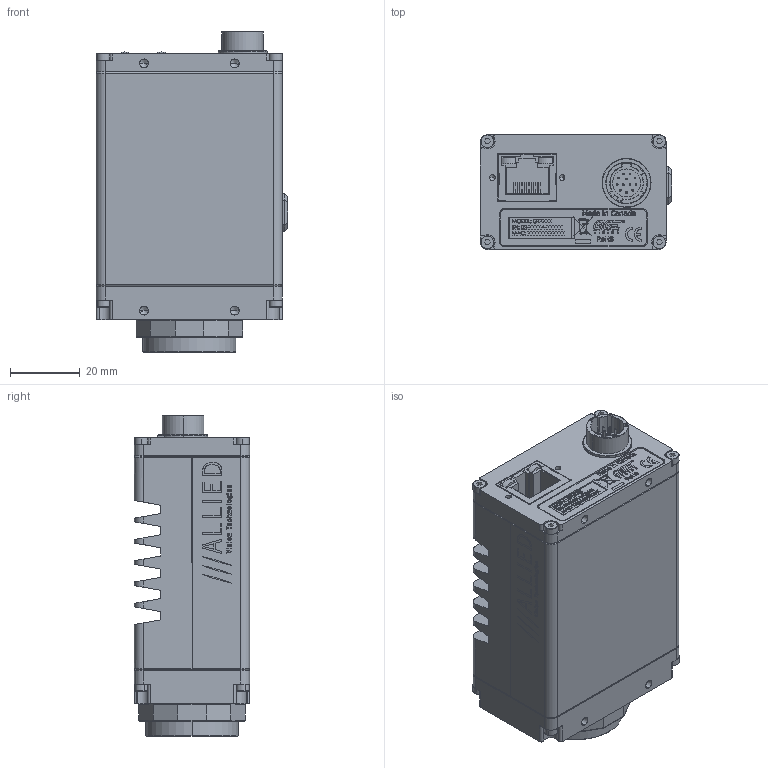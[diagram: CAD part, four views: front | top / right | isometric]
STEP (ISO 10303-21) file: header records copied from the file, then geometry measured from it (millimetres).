
FILE_DESCRIPTION (( 'STEP AP214' ), '1' );
FILE_NAME ('GT1910C CAMERAS ASSY.STEP', '2013-08-01T17:11:16', ( '' ), ( '' ), 'SwSTEP 2.0', 'SolidWorks 2013', '' );
FILE_SCHEMA (( 'AUTOMOTIVE_DESIGN' ));
Length unit declared in the file: millimetre
Products named in the file (26): 100191A-GT BACK ASSY; 110054B-A IR FILTER SUPPORT; 110162A-GT FRONT PLATE LF; GT BOT COVER_110160A-GT BOT COVER LONG; 260034-HIROSE HR10A-10R-12PB; 740144A-GT SERIES LABEL; KODAK KAI-02150 WINDOW; 110031A-B EC-CCD LOCKING RING; 140061-SCREW SKT CAP M2x8 SS; CONN_KOBICONN_163-157J-E; KODAK KAI-02150 BODY; LABEL PRINTOUT; 200130A-GT CONTROL FAST; 100097B - IR FILTER ASSEMBLY 0.75 INCH; GT BODY ASSY_100192A-GT BODY ASSY FAST; CONN_AMPHENOL_RJHSE-5481; GT TOP COVER_110161A-GT TOP COVER LONG; 110153A-GT BACK PLATE; 440002-IR CUT FILTER 22MM DIA; 260034-HIROSE HR10A-10R-12PB NUT; 110003AC-CV CMOUNT RING; 220142-KODAK KAI-02150-CBA; 110103A-GX CCD GASKET; 260034-HIROSE HR10A-10R-12PB WASHER; GT1910C CAMERAS ASSY; GT FRONT ASSY KODAK SF_100201A-GT1910C FRONT ASSY
Assembly tree (32 placements, depth 4):
  GT1910C CAMERAS ASSY
    GT BODY ASSY_100192A-GT BODY ASSY FAST
      200130A-GT CONTROL FAST
        CONN_KOBICONN_163-157J-E
        CONN_AMPHENOL_RJHSE-5481
      140061-SCREW SKT CAP M2x8 SS  x4
      100191A-GT BACK ASSY
        260034-HIROSE HR10A-10R-12PB NUT
        260034-HIROSE HR10A-10R-12PB
        110153A-GT BACK PLATE
        260034-HIROSE HR10A-10R-12PB WASHER
      GT BOT COVER_110160A-GT BOT COVER LONG
      GT TOP COVER_110161A-GT TOP COVER LONG
    140061-SCREW SKT CAP M2x8 SS  x4
    GT FRONT ASSY KODAK SF_100201A-GT1910C FRONT ASSY
      110103A-GX CCD GASKET
      110031A-B EC-CCD LOCKING RING
      110003AC-CV CMOUNT RING
      110162A-GT FRONT PLATE LF
      220142-KODAK KAI-02150-CBA
        KODAK KAI-02150 WINDOW
        KODAK KAI-02150 BODY
      100097B - IR FILTER ASSEMBLY 0.75 INCH
        440002-IR CUT FILTER 22MM DIA
        110054B-A IR FILTER SUPPORT
    740144A-GT SERIES LABEL
    LABEL PRINTOUT
Bounding box: 54.83 x 33.02 x 91.93 mm (x, y, z)
Volume: 65903 mm3; surface area: 56316.9 mm2
Topology: 42 solids, 42 shells, 3839 faces, 9954 edges, 6456 vertices
Faces by surface type: plane 2205, cylinder 725, bspline 641, cone 268
Entity records: 177997 total; most frequent: CARTESIAN_POINT 48363, ORIENTED_EDGE 19116, DIRECTION 16120, EDGE_CURVE 9558, VECTOR 6694, LINE 6694, VERTEX_POINT 6274, AXIS2_PLACEMENT_3D 4713
